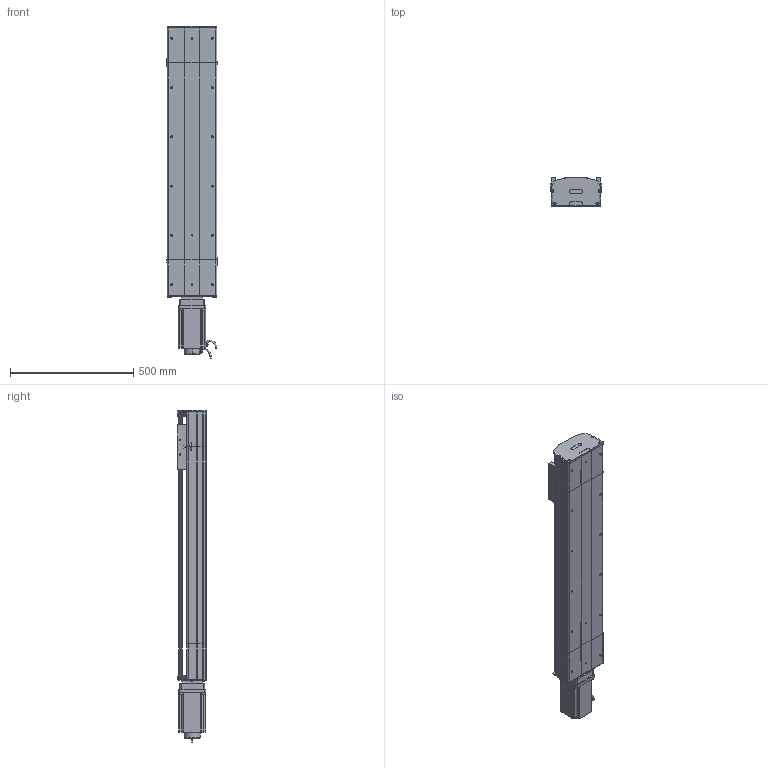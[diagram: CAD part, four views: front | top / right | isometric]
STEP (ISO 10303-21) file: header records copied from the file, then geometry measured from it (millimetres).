
FILE_DESCRIPTION (( 'STEP AP214' ), '1' );
FILE_NAME ('D20 TSH MD S800.STEP', '2010-06-30T08:35:25', ( 'Conseil Régional Haute-Normandie' ), ( 'Conseil Régional Haute-Normandie' ), 'SwSTEP 2.0', 'SolidWorks 2010', '' );
FILE_SCHEMA (( 'AUTOMOTIVE_DESIGN' ));
Length unit declared in the file: millimetre
Products named in the file (33): codeur 110BLDC170A-630x; vis M8 L12_Default; 2 vis M5 L12_Default; clavette; tail D20 S_Default; Conecteur_Default; Conecteur2_Default; tete d''axe haut D20; Arbre+rail tail D20; tete d''axe bas D20; corpl tail D20_Default; vis M5 L8 90°_Default; plaque de  bout tail D20_Default; couvercle tail D20_Default; guide D20; Chariot D20; chariot D20S_Default; vis M5 L12_Default; vis M5 L25_Default; couvercle D20 S800_Default; rail + arbre  D20 S800; Plaque racord D20_Default; D20 TSH MD S800; plaque de  bout head MD D20_Default; corps 110BLDC170A-630x; avant 110BLDC170A-630x; Moteur motionking 110BLDC170A-640x; couvercle head l D20_Default; Arbre+rail head D20; corp D20 S800_Default; course D20 L800_Default; corpl head MD D20_Default; head MD D20_Default
Assembly tree (56 placements, depth 4):
  D20 TSH MD S800
    head MD D20_Default
      Moteur motionking 110BLDC170A-640x
        avant 110BLDC170A-630x
        corps 110BLDC170A-630x
        codeur 110BLDC170A-630x
        Conecteur_Default
        Conecteur2_Default
        clavette
      vis M8 L12_Default  x4
      2 vis M5 L12_Default  x6
      Arbre+rail head D20
      vis M5 L12_Default  x4
      vis M5 L25_Default  x2
      plaque de  bout head MD D20_Default
      couvercle head l D20_Default
      Plaque racord D20_Default
      corpl head MD D20_Default
    chariot D20S_Default
      vis M5 L12_Default  x4
      guide D20  x2
      Chariot D20
    tail D20 S_Default
      tete d''axe bas D20
      Arbre+rail tail D20
      2 vis M5 L12_Default  x4
      vis M5 L8 90°_Default  x2
      vis M5 L25_Default  x2
      plaque de  bout tail D20_Default
      couvercle tail D20_Default
      tete d''axe haut D20
      corpl tail D20_Default
    course D20 L800_Default
      couvercle D20 S800_Default
      corp D20 S800_Default
      rail + arbre  D20 S800
Bounding box: 206 x 115.7 x 1348.5 mm (x, y, z)
Volume: 11205509.3 mm3; surface area: 2302993.6 mm2
Topology: 81 solids, 81 shells, 2222 faces, 5580 edges, 3611 vertices
Faces by surface type: plane 1338, cylinder 608, bspline 136, torus 73, cone 67
Entity records: 72861 total; most frequent: CARTESIAN_POINT 24206, ORIENTED_EDGE 8564, DIRECTION 7999, EDGE_CURVE 4282, VECTOR 2855, LINE 2855, VERTEX_POINT 2823, AXIS2_PLACEMENT_3D 2572
